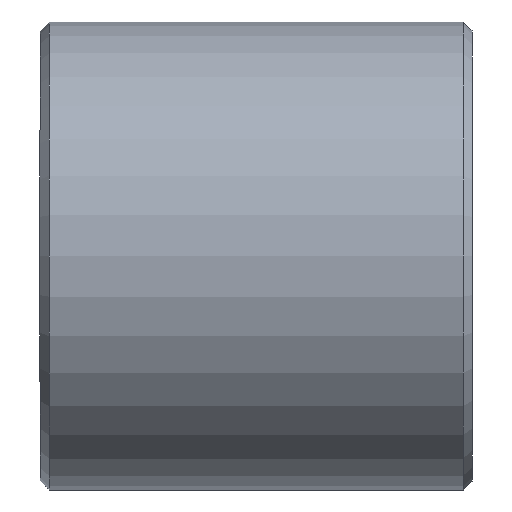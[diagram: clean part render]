
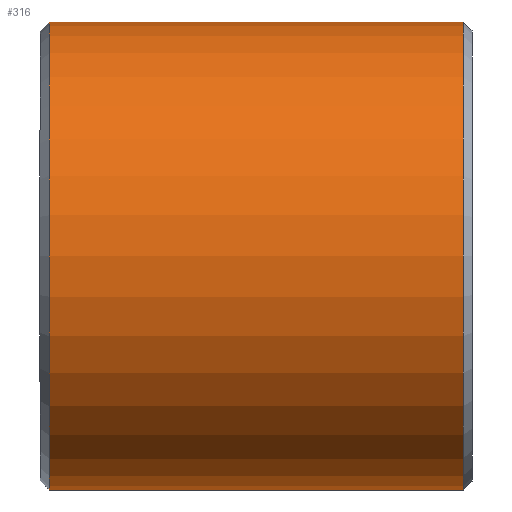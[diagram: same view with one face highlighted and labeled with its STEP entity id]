
A CAD part, left-side view. The second image highlights one B-rep face of the part: STEP entity #316.
In plain terms, the highlighted cylindrical face has radius 13 mm (diameter 26 mm), a partial arc.
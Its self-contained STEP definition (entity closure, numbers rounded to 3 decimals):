
#100 = CARTESIAN_POINT ( 'NONE',  ( 0., 0., 13. ) ) ;
#101 = DIRECTION ( 'NONE',  ( 0., -1., 0. ) ) ;
#102 = CARTESIAN_POINT ( 'NONE',  ( 0., 0., -13. ) ) ;
#103 = DIRECTION ( 'NONE',  ( 0., -1., 0. ) ) ;
#247 = AXIS2_PLACEMENT_3D ( 'NONE', #1765, #1766, #1768 ) ;
#248 = AXIS2_PLACEMENT_3D ( 'NONE', #1772, #1774, #1775 ) ;
#316 = ADVANCED_FACE ( 'NONE', ( #2737 ), #2745, .T. ) ;
#823 = VERTEX_POINT ( 'NONE', #1341 ) ;
#824 = VERTEX_POINT ( 'NONE', #1342 ) ;
#827 = VERTEX_POINT ( 'NONE', #1345 ) ;
#828 = VERTEX_POINT ( 'NONE', #1346 ) ;
#908 = ORIENTED_EDGE ( 'NONE', *, *, #2873, .F. ) ;
#909 = ORIENTED_EDGE ( 'NONE', *, *, #1924, .T. ) ;
#910 = ORIENTED_EDGE ( 'NONE', *, *, #2874, .T. ) ;
#911 = ORIENTED_EDGE ( 'NONE', *, *, #1925, .T. ) ;
#1341 = CARTESIAN_POINT ( 'NONE',  ( 0., 2., -13. ) ) ;
#1342 = CARTESIAN_POINT ( 'NONE',  ( 0., 2., 13. ) ) ;
#1345 = CARTESIAN_POINT ( 'NONE',  ( 0., 25., 13. ) ) ;
#1346 = CARTESIAN_POINT ( 'NONE',  ( 0., 25., -13. ) ) ;
#1601 = DIRECTION ( 'NONE',  ( 0., 0., -1. ) ) ;
#1611 = DIRECTION ( 'NONE',  ( 0., -1., 0. ) ) ;
#1612 = CARTESIAN_POINT ( 'NONE',  ( 0., 0., 0. ) ) ;
#1668 = AXIS2_PLACEMENT_3D ( 'NONE', #1612, #1611, #1601 ) ;
#1765 = CARTESIAN_POINT ( 'NONE',  ( 0., 25., 0. ) ) ;
#1766 = DIRECTION ( 'NONE',  ( 0., -1., 0. ) ) ;
#1768 = DIRECTION ( 'NONE',  ( 0., 0., -1. ) ) ;
#1772 = CARTESIAN_POINT ( 'NONE',  ( 0., 2., 0. ) ) ;
#1774 = DIRECTION ( 'NONE',  ( 0., 1., 0. ) ) ;
#1775 = DIRECTION ( 'NONE',  ( 0., 0., 1. ) ) ;
#1840 = EDGE_LOOP ( 'NONE', ( #908, #909, #910, #911 ) ) ;
#1924 = EDGE_CURVE ( 'NONE', #827, #828, #2519, .T. ) ;
#1925 = EDGE_CURVE ( 'NONE', #823, #824, #2520, .T. ) ;
#2519 = CIRCLE ( 'NONE', #247, 13. ) ;
#2520 = CIRCLE ( 'NONE', #248, 13. ) ;
#2569 = LINE ( 'NONE', #102, #2574 ) ;
#2571 = LINE ( 'NONE', #100, #2572 ) ;
#2572 = VECTOR ( 'NONE', #101, 1000. ) ;
#2574 = VECTOR ( 'NONE', #103, 1000. ) ;
#2737 = FACE_OUTER_BOUND ( 'NONE', #1840, .T. ) ;
#2745 = CYLINDRICAL_SURFACE ( 'NONE', #1668, 13. ) ;
#2873 = EDGE_CURVE ( 'NONE', #827, #824, #2571, .T. ) ;
#2874 = EDGE_CURVE ( 'NONE', #828, #823, #2569, .T. ) ;
